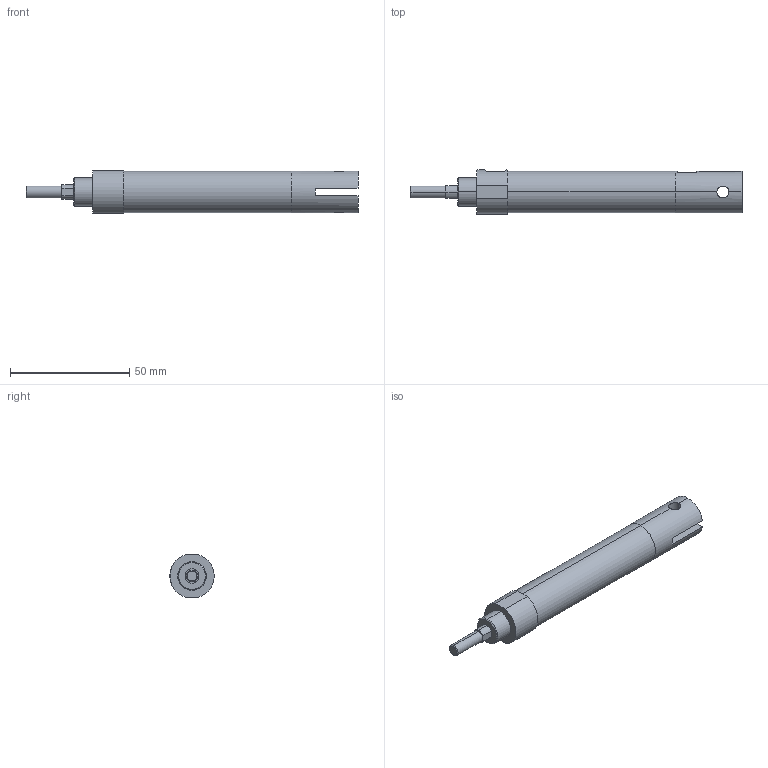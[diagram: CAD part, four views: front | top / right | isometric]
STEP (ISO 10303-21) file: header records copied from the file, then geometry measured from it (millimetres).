
FILE_DESCRIPTION (( 'STEP AP203' ), '1' );
FILE_NAME ('ZGU2-16-45-W.STEP', '2016-03-31T01:00:56', ( '' ), ( '' ), 'SwSTEP 2.0', 'SolidWorks 2014', '' );
FILE_SCHEMA (( 'CONFIG_CONTROL_DESIGN' ));
Length unit declared in the file: millimetre
Products named in the file (1): ZGU2-16-45-W
Bounding box: 139 x 18.46 x 17.6 mm (x, y, z)
Volume: 26585.8 mm3; surface area: 8133.4 mm2
Topology: 1 solids, 1 shells, 50 faces, 117 edges, 72 vertices
Faces by surface type: cylinder 21, plane 21, cone 8
Entity records: 1598 total; most frequent: CARTESIAN_POINT 358, DIRECTION 257, ORIENTED_EDGE 226, EDGE_CURVE 113, AXIS2_PLACEMENT_3D 99, VERTEX_POINT 72, EDGE_LOOP 61, VECTOR 59
